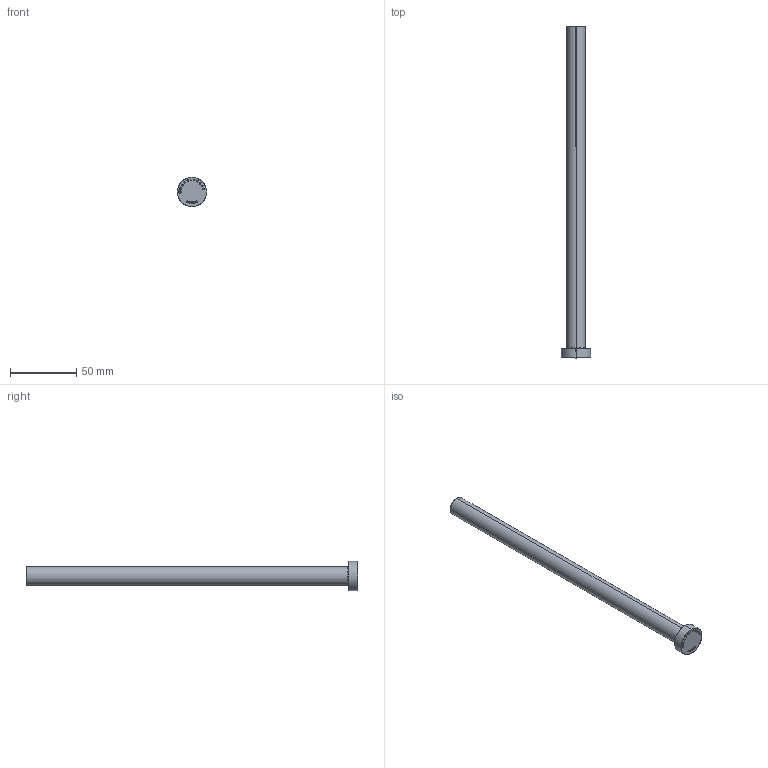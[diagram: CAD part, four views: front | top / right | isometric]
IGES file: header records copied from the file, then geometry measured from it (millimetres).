
Start section: SolidWorks IGES file using analytic representation for surfaces
Global section: file name: D:\Cleonir_particular\Matripeças\Pinos Extradores A DIN 1530\PA14,0250.IGS; native system: SolidWorks 2013; preprocessor: SolidWorks 2013; author: Cleonir; date: 130225.153617; units: millimetre
Bounding box: 22 x 250 x 22 mm (x, y, z)
Surface area: 11971.9 mm2 (no closed solid volume)
Topology: 0 solids, 0 shells, 290 faces, 3034 edges, 3034 vertices
Faces by surface type: bspline 278, revolution 12
